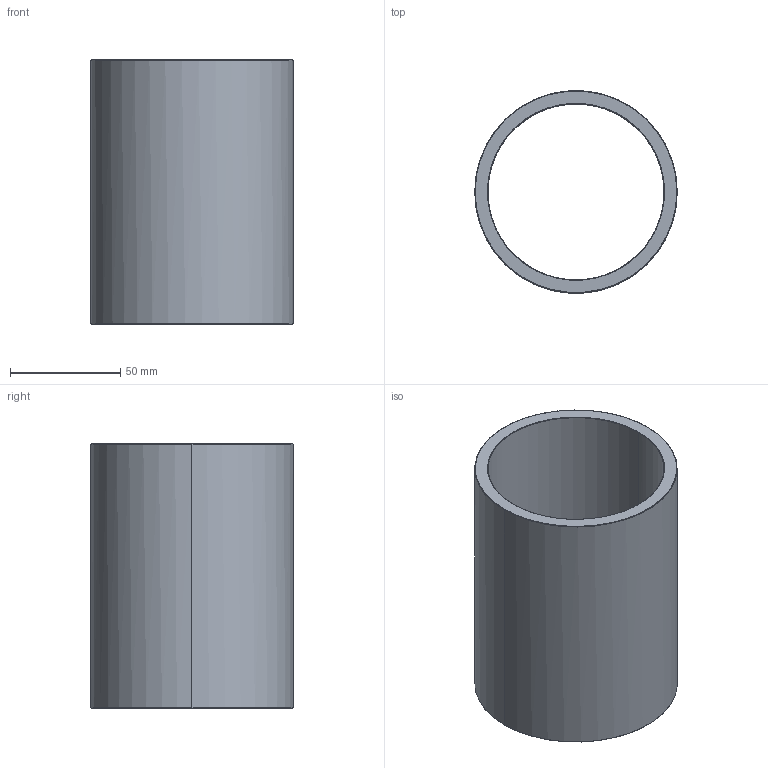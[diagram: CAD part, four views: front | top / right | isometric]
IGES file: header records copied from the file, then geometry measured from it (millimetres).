
Start section: Write IGES format                                    datakit 2008 (c)
Global section: file name: Unknown; native system: DATAKIT Converter; preprocessor: Unknown; author: Unknown; organization: Unknown; date: 950613.180003; units: millimetre
Bounding box: 92 x 91.79 x 120 mm (x, y, z)
Surface area: 67958 mm2 (no closed solid volume)
Topology: 0 solids, 0 shells, 14 faces, 56 edges, 56 vertices
Faces by surface type: revolution 12, bspline 2
